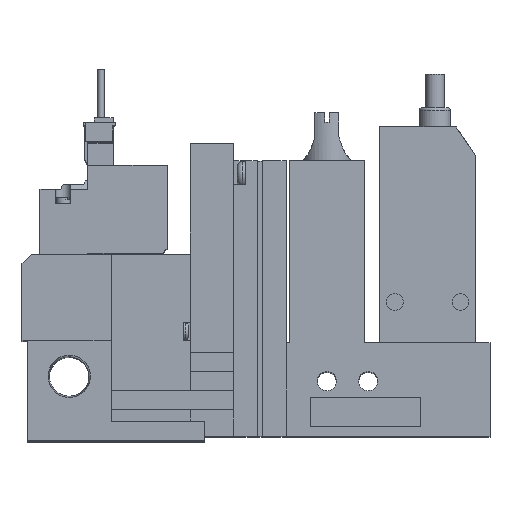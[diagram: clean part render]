
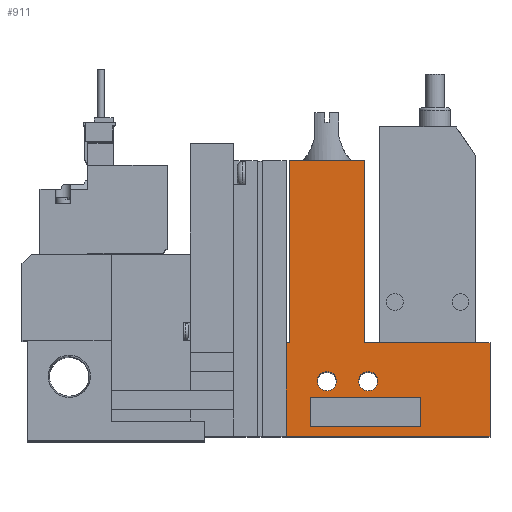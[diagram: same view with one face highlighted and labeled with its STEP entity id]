
A CAD part, top view. The second image highlights one B-rep face of the part: STEP entity #911.
In plain terms, the highlighted planar face has unit normal (0, 0, 1).
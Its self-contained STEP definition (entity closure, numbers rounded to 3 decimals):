
#911=ADVANCED_FACE('',(#1846,#1847,#1848,#1849),#1850,.T.);
#1846=FACE_BOUND('',#3040,.T.);
#1847=FACE_BOUND('',#3041,.T.);
#1848=FACE_BOUND('',#3042,.T.);
#1849=FACE_OUTER_BOUND('',#3043,.T.);
#1850=PLANE('',#3044);
#3040=EDGE_LOOP('',(#6443,#6444,#6445,#6446));
#3041=EDGE_LOOP('',(#6447));
#3042=EDGE_LOOP('',(#6448));
#3043=EDGE_LOOP('',(#6449,#6450,#6451,#6452,#6453,#6454,#6455,#6456));
#3044=AXIS2_PLACEMENT_3D('',#6457,#6458,#6459);
#6443=ORIENTED_EDGE('',*,*,#8222,.T.);
#6444=ORIENTED_EDGE('',*,*,#8171,.T.);
#6445=ORIENTED_EDGE('',*,*,#8132,.T.);
#6446=ORIENTED_EDGE('',*,*,#8254,.T.);
#6447=ORIENTED_EDGE('',*,*,#8128,.T.);
#6448=ORIENTED_EDGE('',*,*,#8339,.T.);
#6449=ORIENTED_EDGE('',*,*,#8253,.F.);
#6450=ORIENTED_EDGE('',*,*,#8282,.T.);
#6451=ORIENTED_EDGE('',*,*,#8337,.T.);
#6452=ORIENTED_EDGE('',*,*,#8125,.T.);
#6453=ORIENTED_EDGE('',*,*,#8322,.T.);
#6454=ORIENTED_EDGE('',*,*,#8318,.T.);
#6455=ORIENTED_EDGE('',*,*,#8342,.T.);
#6456=ORIENTED_EDGE('',*,*,#8057,.T.);
#6457=CARTESIAN_POINT('',(0.0,0.0,10.0));
#6458=DIRECTION('',(0.0,0.0,1.0));
#6459=DIRECTION('',(1.0,0.0,0.0));
#8057=EDGE_CURVE('',#9731,#9729,#9732,.T.);
#8125=EDGE_CURVE('',#9855,#9853,#9856,.T.);
#8128=EDGE_CURVE('',#9860,#9860,#9861,.T.);
#8132=EDGE_CURVE('',#9862,#9867,#9869,.T.);
#8171=EDGE_CURVE('',#9937,#9862,#9941,.T.);
#8222=EDGE_CURVE('',#10019,#9937,#10023,.T.);
#8253=EDGE_CURVE('',#10071,#9729,#10073,.T.);
#8254=EDGE_CURVE('',#9867,#10019,#10074,.T.);
#8282=EDGE_CURVE('',#10071,#10115,#10117,.T.);
#8318=EDGE_CURVE('',#10169,#10167,#10170,.T.);
#8322=EDGE_CURVE('',#9853,#10169,#10174,.T.);
#8337=EDGE_CURVE('',#10115,#9855,#10192,.T.);
#8339=EDGE_CURVE('',#10194,#10194,#10195,.T.);
#8342=EDGE_CURVE('',#10167,#9731,#10198,.T.);
#9729=VERTEX_POINT('',#12443);
#9731=VERTEX_POINT('',#12446);
#9732=LINE('',#12447,#12448);
#9853=VERTEX_POINT('',#12676);
#9855=VERTEX_POINT('',#12679);
#9856=LINE('',#12680,#12681);
#9860=VERTEX_POINT('',#12686);
#9861=CIRCLE('',#12687,2.0);
#9862=VERTEX_POINT('',#12688);
#9867=VERTEX_POINT('',#12695);
#9869=LINE('',#12698,#12699);
#9937=VERTEX_POINT('',#12801);
#9941=LINE('',#12807,#12808);
#10019=VERTEX_POINT('',#12932);
#10023=LINE('',#12938,#12939);
#10071=VERTEX_POINT('',#13015);
#10073=LINE('',#13018,#13019);
#10074=LINE('',#13020,#13021);
#10115=VERTEX_POINT('',#13085);
#10117=LINE('',#13088,#13089);
#10167=VERTEX_POINT('',#13169);
#10169=VERTEX_POINT('',#13172);
#10170=LINE('',#13173,#13174);
#10174=LINE('',#13181,#13182);
#10192=LINE('',#13213,#13214);
#10194=VERTEX_POINT('',#13217);
#10195=CIRCLE('',#13218,2.0);
#10198=LINE('',#13223,#13224);
#12443=CARTESIAN_POINT('',(55.1,19.5,10.0));
#12446=CARTESIAN_POINT('',(55.75,19.5,10.0));
#12447=CARTESIAN_POINT('',(55.75,19.5,10.0));
#12448=VECTOR('',#14934,1.0);
#12676=CARTESIAN_POINT('',(71.45,19.5,10.0));
#12679=CARTESIAN_POINT('',(97.6,19.5,10.0));
#12680=CARTESIAN_POINT('',(97.6,19.5,10.0));
#12681=VECTOR('',#15019,1.0);
#12686=CARTESIAN_POINT('',(65.6,11.5,10.0));
#12687=AXIS2_PLACEMENT_3D('',#15024,#15025,#15026);
#12688=CARTESIAN_POINT('',(83.1,8.0,10.0));
#12695=CARTESIAN_POINT('',(83.1,2.0,10.0));
#12698=CARTESIAN_POINT('',(83.1,0.0,10.0));
#12699=VECTOR('',#15030,1.0);
#12801=CARTESIAN_POINT('',(60.1,8.0,10.0));
#12807=CARTESIAN_POINT('',(0.0,8.0,10.0));
#12808=VECTOR('',#15073,1.0);
#12932=CARTESIAN_POINT('',(60.1,2.0,10.0));
#12938=CARTESIAN_POINT('',(60.1,0.0,10.0));
#12939=VECTOR('',#15128,1.0);
#13015=CARTESIAN_POINT('',(55.1,0.0,10.0));
#13018=CARTESIAN_POINT('',(55.1,0.0,10.0));
#13019=VECTOR('',#15161,1.0);
#13020=CARTESIAN_POINT('',(0.0,2.0,10.0));
#13021=VECTOR('',#15162,1.0);
#13085=CARTESIAN_POINT('',(97.6,0.0,10.0));
#13088=CARTESIAN_POINT('',(18.6,0.0,10.0));
#13089=VECTOR('',#15196,1.0);
#13169=CARTESIAN_POINT('',(55.75,57.5,10.0));
#13172=CARTESIAN_POINT('',(71.45,57.5,10.0));
#13173=CARTESIAN_POINT('',(71.45,57.5,10.0));
#13174=VECTOR('',#15240,1.0);
#13181=CARTESIAN_POINT('',(71.45,19.5,10.0));
#13182=VECTOR('',#15244,1.0);
#13213=CARTESIAN_POINT('',(97.6,0.0,10.0));
#13214=VECTOR('',#15261,1.0);
#13217=CARTESIAN_POINT('',(74.2,11.5,10.0));
#13218=AXIS2_PLACEMENT_3D('',#15263,#15264,#15265);
#13223=CARTESIAN_POINT('',(55.75,57.5,10.0));
#13224=VECTOR('',#15268,1.0);
#14934=DIRECTION('',(-1.0,0.0,0.0));
#15019=DIRECTION('',(-1.0,0.0,0.0));
#15024=CARTESIAN_POINT('',(63.6,11.5,10.0));
#15025=DIRECTION('',(0.0,0.0,-1.0));
#15026=DIRECTION('',(1.0,0.0,0.0));
#15030=DIRECTION('',(0.0,-1.0,0.0));
#15073=DIRECTION('',(1.0,0.0,0.0));
#15128=DIRECTION('',(0.0,1.0,0.0));
#15161=DIRECTION('',(0.0,1.0,0.0));
#15162=DIRECTION('',(-1.0,0.0,0.0));
#15196=DIRECTION('',(1.0,0.0,0.0));
#15240=DIRECTION('',(-1.0,0.0,0.0));
#15244=DIRECTION('',(0.0,1.0,0.0));
#15261=DIRECTION('',(0.0,1.0,0.0));
#15263=CARTESIAN_POINT('',(72.2,11.5,10.0));
#15264=DIRECTION('',(0.0,0.0,-1.0));
#15265=DIRECTION('',(1.0,0.0,0.0));
#15268=DIRECTION('',(0.0,-1.0,0.0));
